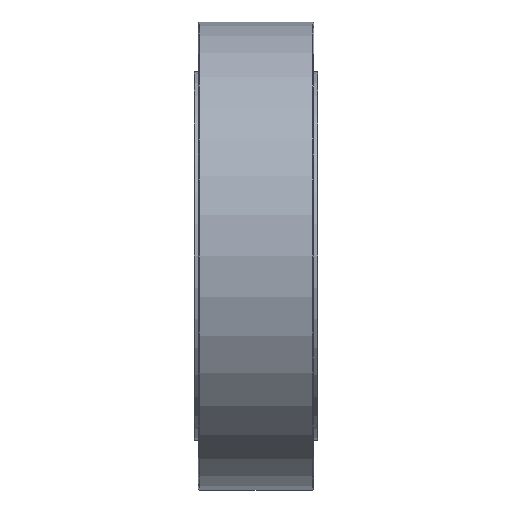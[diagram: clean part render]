
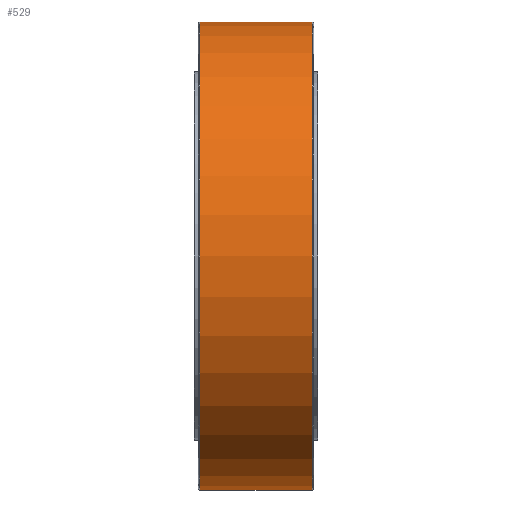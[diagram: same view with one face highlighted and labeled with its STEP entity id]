
A CAD part, front view. The second image highlights one B-rep face of the part: STEP entity #529.
In plain terms, the highlighted cylindrical face has radius 170 mm (diameter 340 mm), a partial arc.
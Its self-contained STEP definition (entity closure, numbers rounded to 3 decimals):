
#96 = ORIENTED_EDGE ( 'NONE', *, *, #489, .T. ) ;
#105 = ORIENTED_EDGE ( 'NONE', *, *, #485, .F. ) ;
#194 = VERTEX_POINT ( 'NONE', #1506 ) ;
#195 = VERTEX_POINT ( 'NONE', #1541 ) ;
#203 = VERTEX_POINT ( 'NONE', #209 ) ;
#209 = CARTESIAN_POINT ( 'NONE',  ( -41., 0., 170. ) ) ;
#248 = VERTEX_POINT ( 'NONE', #1661 ) ;
#485 = EDGE_CURVE ( 'NONE', #194, #195, #2149, .T. ) ;
#489 = EDGE_CURVE ( 'NONE', #248, #203, #2144, .T. ) ;
#529 = ADVANCED_FACE ( 'NONE', ( #2198 ), #2166, .T. ) ;
#530 = EDGE_CURVE ( 'NONE', #194, #248, #2182, .T. ) ;
#531 = EDGE_CURVE ( 'NONE', #203, #195, #2183, .T. ) ;
#532 = ORIENTED_EDGE ( 'NONE', *, *, #530, .T. ) ;
#534 = ORIENTED_EDGE ( 'NONE', *, *, #531, .T. ) ;
#539 = EDGE_LOOP ( 'NONE', ( #105, #532, #96, #534 ) ) ;
#1506 = CARTESIAN_POINT ( 'NONE',  ( 41., 0., -170. ) ) ;
#1541 = CARTESIAN_POINT ( 'NONE',  ( -41., 0., -170. ) ) ;
#1661 = CARTESIAN_POINT ( 'NONE',  ( 41., 0., 170. ) ) ;
#2139 = DIRECTION ( 'NONE',  ( -1., 0., 0. ) ) ;
#2140 = VECTOR ( 'NONE', #2139, 1000. ) ;
#2141 = CARTESIAN_POINT ( 'NONE',  ( -41.122, 0., 170. ) ) ;
#2144 = LINE ( 'NONE', #2141, #2140 ) ;
#2146 = DIRECTION ( 'NONE',  ( -1., 0., 0. ) ) ;
#2147 = VECTOR ( 'NONE', #2146, 1000. ) ;
#2148 = CARTESIAN_POINT ( 'NONE',  ( -41.122, 0., -170. ) ) ;
#2149 = LINE ( 'NONE', #2148, #2147 ) ;
#2166 = CYLINDRICAL_SURFACE ( 'NONE', #2192, 170. ) ;
#2177 = CARTESIAN_POINT ( 'NONE',  ( -41., 0., 0. ) ) ;
#2179 = DIRECTION ( 'NONE',  ( 0., 0., 1. ) ) ;
#2180 = DIRECTION ( 'NONE',  ( -1., 0., 0. ) ) ;
#2181 = CARTESIAN_POINT ( 'NONE',  ( 41., 0., 0. ) ) ;
#2182 = CIRCLE ( 'NONE', #2200, 170. ) ;
#2183 = CIRCLE ( 'NONE', #2199, 170. ) ;
#2184 = DIRECTION ( 'NONE',  ( 0., 0., 1. ) ) ;
#2186 = CARTESIAN_POINT ( 'NONE',  ( -41.122, 0., 0. ) ) ;
#2191 = DIRECTION ( 'NONE',  ( -1., 0., 0. ) ) ;
#2192 = AXIS2_PLACEMENT_3D ( 'NONE', #2186, #2191, #2184 ) ;
#2198 = FACE_OUTER_BOUND ( 'NONE', #539, .T. ) ;
#2199 = AXIS2_PLACEMENT_3D ( 'NONE', #2177, #2237, #2236 ) ;
#2200 = AXIS2_PLACEMENT_3D ( 'NONE', #2181, #2180, #2179 ) ;
#2236 = DIRECTION ( 'NONE',  ( 0., 0., -1. ) ) ;
#2237 = DIRECTION ( 'NONE',  ( 1., 0., 0. ) ) ;
